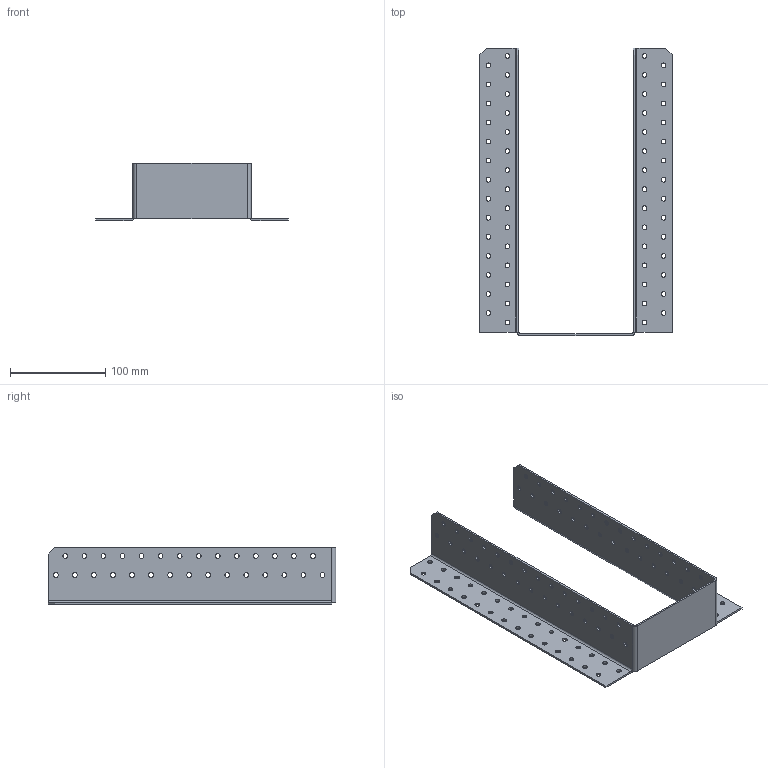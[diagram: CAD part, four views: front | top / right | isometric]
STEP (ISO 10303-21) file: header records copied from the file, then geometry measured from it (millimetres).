
FILE_DESCRIPTION (( 'STEP AP203' ), '1' );
FILE_NAME ('405072.STEP', '2021-04-17T16:30:26', ( '' ), ( '' ), 'SwSTEP 2.0', 'SolidWorks 2013', '' );
FILE_SCHEMA (( 'CONFIG_CONTROL_DESIGN' ));
Length unit declared in the file: millimetre
Products named in the file (1): 405072
Bounding box: 202 x 302 x 60 mm (x, y, z)
Volume: 126271.1 mm3; surface area: 133319.4 mm2
Topology: 1 solids, 1 shells, 276 faces, 792 edges, 518 vertices
Faces by surface type: cylinder 240, plane 36
Entity records: 9819 total; most frequent: DIRECTION 1828, CARTESIAN_POINT 1587, ORIENTED_EDGE 1584, EDGE_CURVE 792, AXIS2_PLACEMENT_3D 759, VERTEX_POINT 518, EDGE_LOOP 508, CIRCLE 482
